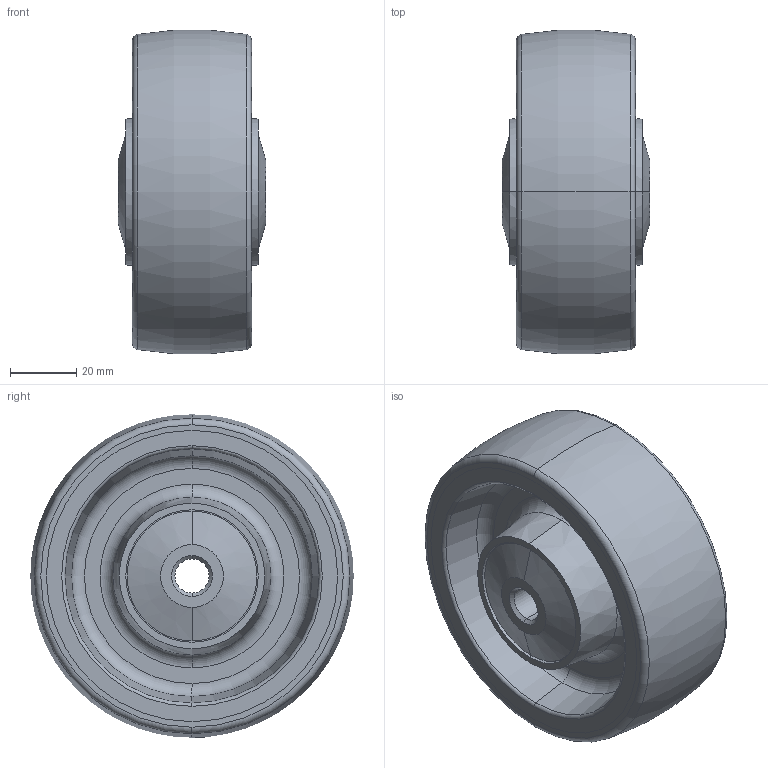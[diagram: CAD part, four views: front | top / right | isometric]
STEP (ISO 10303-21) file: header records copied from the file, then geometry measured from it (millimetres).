
FILE_DESCRIPTION (( 'STEP AP203' ), '1' );
FILE_NAME ('400079_STEP.STEP', '2011-08-29T07:00:30', ( '' ), ( '' ), 'SwSTEP 2.0', 'SolidWorks 2011', '' );
FILE_SCHEMA (( 'CONFIG_CONTROL_DESIGN' ));
Length unit declared in the file: millimetre
Products named in the file (1): 400079_STEP
Bounding box: 44.6 x 97.7 x 97.7 mm (x, y, z)
Surface area: 41212.7 mm2 (no closed solid volume)
Topology: 0 solids, 5 shells, 66 faces, 142 edges, 88 vertices
Faces by surface type: cylinder 20, torus 18, cone 16, plane 12
Entity records: 1897 total; most frequent: DIRECTION 382, CARTESIAN_POINT 297, ORIENTED_EDGE 264, AXIS2_PLACEMENT_3D 173, EDGE_CURVE 142, CIRCLE 106, VERTEX_POINT 88, EDGE_LOOP 78
